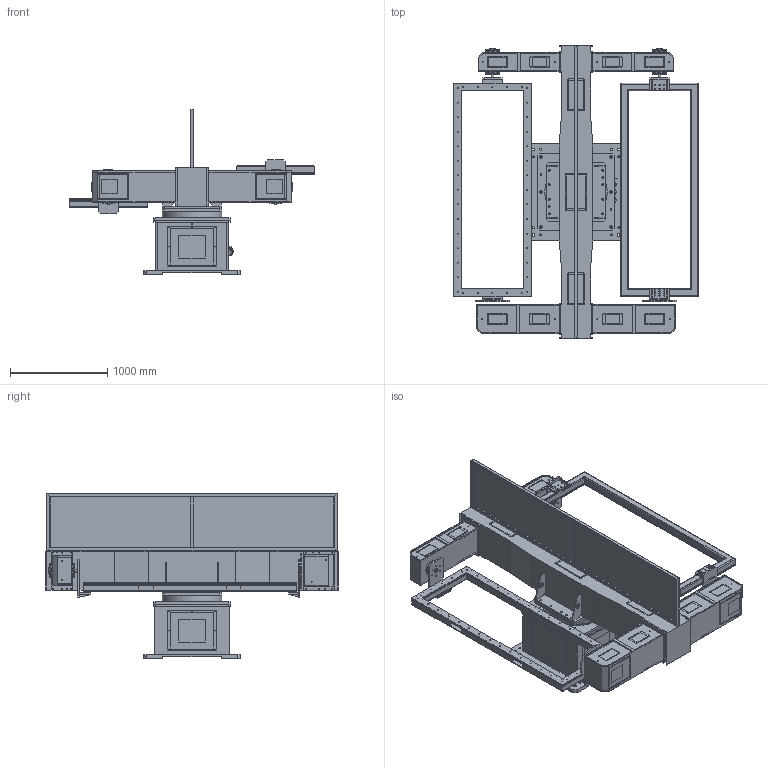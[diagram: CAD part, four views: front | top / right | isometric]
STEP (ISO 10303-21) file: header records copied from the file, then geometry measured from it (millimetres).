
FILE_DESCRIPTION (( 'STEP AP203' ), '1' );
FILE_NAME ('GS-TWP-S-500.STEP', '2019-12-06T08:23:08', ( 'Microsoft' ), ( 'Microsoft' ), 'SwSTEP 2.0', 'SolidWorks 2016', '' );
FILE_SCHEMA (( 'CONFIG_CONTROL_DESIGN' ));
Length unit declared in the file: millimetre
Products named in the file (1): GS-TWP-S-500
Bounding box: 2522 x 3025 x 1710 mm (x, y, z)
Surface area: 25324624.8 mm2 (no closed solid volume)
Topology: 0 solids, 93 shells, 998 faces, 4057 edges, 3102 vertices
Faces by surface type: plane 685, cylinder 285, cone 27, torus 1
Full cylindrical faces by diameter (mm): 6.6 x18, 9 x4, 10 x3, 10.2 x56, 11 x22, 13 x21, 14 x4, 16 x3, 17.5 x8, 18 x8, 20 x1, 26 x3, 30 x8, 42 x1, 50 x4, 55 x4, 65 x1, 150 x12, 206 x1, 360 x2, 615 x1, 645 x1
Entity records: 42018 total; most frequent: CARTESIAN_POINT 8533, DIRECTION 6795, ORIENTED_EDGE 5431, EDGE_CURVE 3723, VERTEX_POINT 2982, LINE 2417, VECTOR 2417, AXIS2_PLACEMENT_3D 2189
